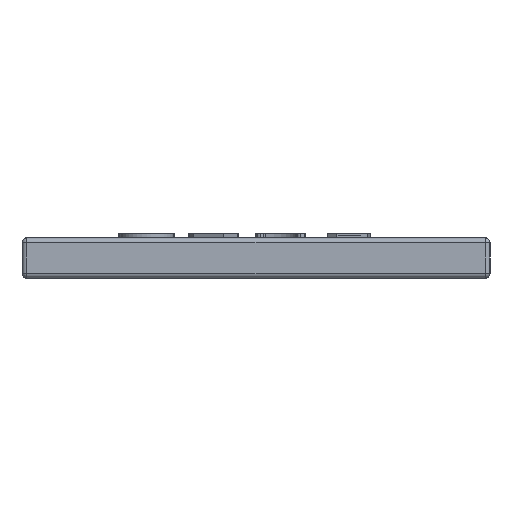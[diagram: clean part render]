
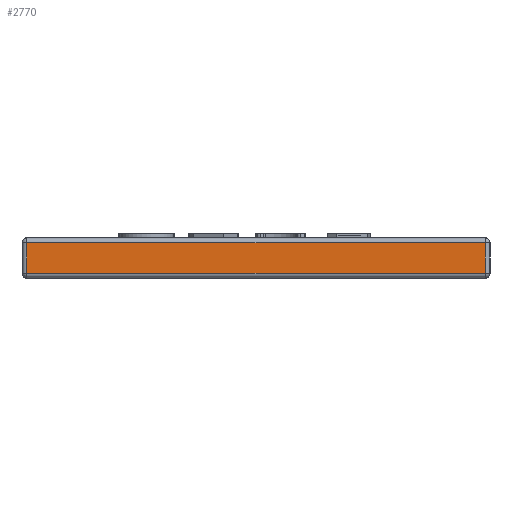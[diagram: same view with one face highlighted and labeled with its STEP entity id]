
A CAD part, left-side view. The second image highlights one B-rep face of the part: STEP entity #2770.
In plain terms, the highlighted planar face has unit normal (-1, 0, 0).
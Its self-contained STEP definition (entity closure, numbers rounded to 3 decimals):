
#2731=CARTESIAN_POINT('',(-5.,-12.45,16.));
#2732=DIRECTION('',(1.,0.,0.));
#2733=DIRECTION('',(0.,0.,-1.));
#2734=AXIS2_PLACEMENT_3D('',#2731,#2732,#2733);
#2735=PLANE('',#2734);
#2736=CARTESIAN_POINT('',(-5.,-29.546,13.354));
#2737=VERTEX_POINT('',#2736);
#2738=CARTESIAN_POINT('',(-5.,-29.546,15.646));
#2739=VERTEX_POINT('',#2738);
#2740=CARTESIAN_POINT('',(-5.,-29.546,13.354));
#2741=DIRECTION('',(-0.,-0.,1.));
#2742=VECTOR('',#2741,2.293);
#2743=LINE('',#2740,#2742);
#2744=EDGE_CURVE('',#2737,#2739,#2743,.T.);
#2745=ORIENTED_EDGE('',*,*,#2744,.T.);
#2746=CARTESIAN_POINT('',(-5.,4.646,15.646));
#2747=VERTEX_POINT('',#2746);
#2748=CARTESIAN_POINT('',(-5.,-29.546,15.646));
#2749=DIRECTION('',(-0.,1.,-0.));
#2750=VECTOR('',#2749,34.193);
#2751=LINE('',#2748,#2750);
#2752=EDGE_CURVE('',#2739,#2747,#2751,.T.);
#2753=ORIENTED_EDGE('',*,*,#2752,.T.);
#2754=CARTESIAN_POINT('',(-5.,4.646,13.354));
#2755=VERTEX_POINT('',#2754);
#2756=CARTESIAN_POINT('',(-5.,4.646,15.646));
#2757=DIRECTION('',(0.,0.,-1.));
#2758=VECTOR('',#2757,2.293);
#2759=LINE('',#2756,#2758);
#2760=EDGE_CURVE('',#2747,#2755,#2759,.T.);
#2761=ORIENTED_EDGE('',*,*,#2760,.T.);
#2762=CARTESIAN_POINT('',(-5.,4.646,13.354));
#2763=DIRECTION('',(0.,-1.,0.));
#2764=VECTOR('',#2763,34.193);
#2765=LINE('',#2762,#2764);
#2766=EDGE_CURVE('',#2755,#2737,#2765,.T.);
#2767=ORIENTED_EDGE('',*,*,#2766,.T.);
#2768=EDGE_LOOP('',(#2745,#2753,#2761,#2767));
#2769=FACE_BOUND('',#2768,.T.);
#2770=ADVANCED_FACE('',(#2769),#2735,.F.);
